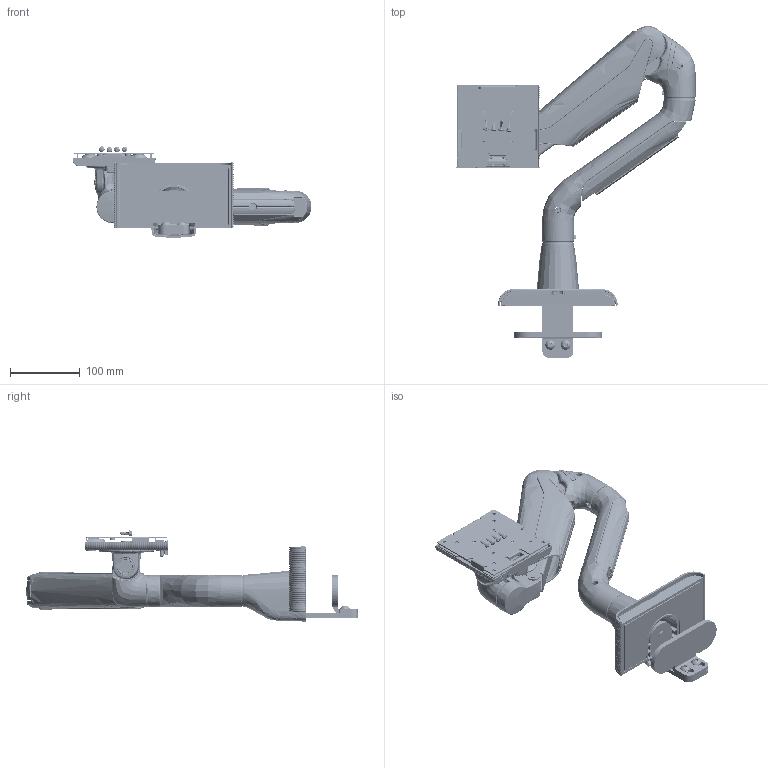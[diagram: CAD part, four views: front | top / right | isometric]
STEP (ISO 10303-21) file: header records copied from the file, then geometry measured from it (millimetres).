
FILE_DESCRIPTION(/* description */ (''),/* implementation_level */ '2;1');
FILE_NAME(/* name */ 'E5-D1XX_Simplify-A.stp',/* time_stamp */ '2024-10-31T09:50:35-04:00',/* author */ ('sbowman'),/* organization */ (''),/* preprocessor_version */ 'ST-DEVELOPER v19.2',/* originating_system */ 'Autodesk Inventor 2023',/* authorisation */ '');
FILE_SCHEMA (('AUTOMOTIVE_DESIGN { 1 0 10303 214 3 1 1 }'));
Products named in the file (1): E5-D1XX_Simplify_1
Bounding box: 343.91 x 477.64 x 131.32 mm (x, y, z)
Volume: 1316576.2 mm3; surface area: 657221 mm2
Topology: 13 solids, 67 shells, 22003 faces, 55691 edges, 34153 vertices
Faces by surface type: bspline 7899, plane 7752, cylinder 4151, sphere 947, cone 672, torus 582
Full cylindrical faces by diameter (mm): 1.76 x12, 2 x6, 2.013 x3, 3.091 x94, 3.242 x23, 3.4 x4, 4 x80, 4.134 x4, 4.5 x6, 4.6 x1, 5 x8, 5.5 x4, 6 x7, 6.05 x2, 6.1 x10, 6.3 x1, 6.376 x125, 6.4 x4, 6.647 x25, 6.655 x4, 7.5 x5, 7.87 x4, 8 x108, 8.2 x1, 8.3 x2, 9 x6, 9.3 x1, 10 x1, 13 x1, 14 x1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
Entity records: 1041242 total; most frequent: CARTESIAN_POINT 541992, ORIENTED_EDGE 110920, DIRECTION 80462, EDGE_CURVE 55460, VERTEX_POINT 34152, AXIS2_PLACEMENT_3D 28292, LINE 23878, VECTOR 23878
